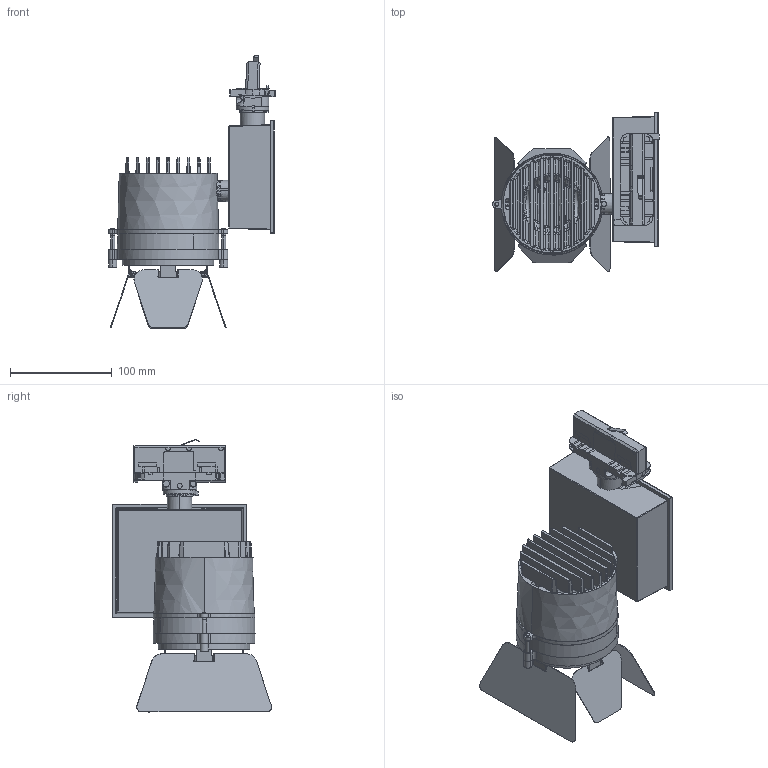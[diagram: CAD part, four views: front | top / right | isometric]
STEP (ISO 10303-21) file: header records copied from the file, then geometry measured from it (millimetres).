
FILE_DESCRIPTION(/* description */ (''),/* implementation_level */ '2;1');
FILE_NAME(/* name */ 'Picto 100 Orizzontale + adjustable dowsers AD14S0Y__',/* time_stamp */ '2018-02-19T16:21:42+01:00',/* author */ (''),/* organization */ (''),/* preprocessor_version */ 'ST-DEVELOPER v15',/* originating_system */ '',/* authorisation */ '');
FILE_SCHEMA (('CONFIG_CONTROL_DESIGN'));
Length unit declared in the file: millimetre
Products named in the file (1): Document
Bounding box: 163.89 x 156.33 x 268.51 mm (x, y, z)
Volume: 54542.9 mm3; surface area: 234340.9 mm2
Topology: 30 solids, 783 shells, 1380 faces, 5794 edges, 5150 vertices
Faces by surface type: bspline 880, plane 500
Entity records: 78789 total; most frequent: CARTESIAN_POINT 49840, ORIENTED_EDGE 7446, EDGE_CURVE 5729, VERTEX_POINT 5152, B_SPLINE_CURVE_WITH_KNOTS 3099, EDGE_LOOP 1469, ADVANCED_FACE 1378, FACE_OUTER_BOUND 1378
